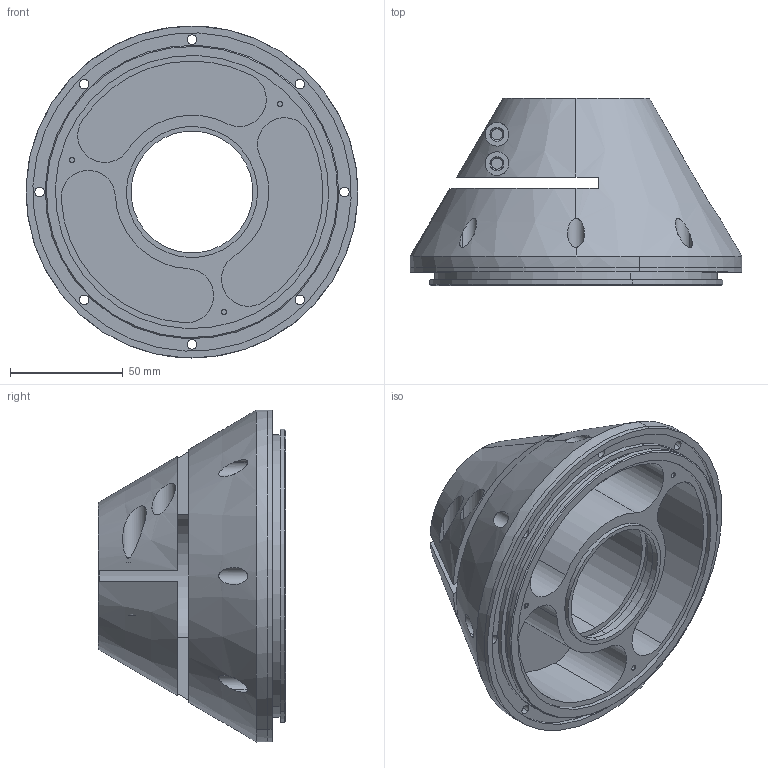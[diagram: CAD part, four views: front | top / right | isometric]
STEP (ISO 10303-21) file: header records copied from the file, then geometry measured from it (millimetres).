
FILE_DESCRIPTION(/* description */ ('VariCAD 2009-1.04 AP-203'),/* implementation_level */ '2;1');
FILE_NAME(/* name */ '0353-10-14',/* time_stamp */ '2009-11-21T16:11:44-07:00',/* author */ (''),/* organization */ (''),/* preprocessor_version */ 'ST-DEVELOPER v12',/* originating_system */ 'VariCAD 2009-1.04; kernel version (20080921)',/* authorisation */ '');
FILE_SCHEMA (('CONFIG_CONTROL_DESIGN'));
Length unit declared in the file: millimetre
Products named in the file (1): Part
Bounding box: 146.96 x 83 x 147 mm (x, y, z)
Volume: 371907.2 mm3; surface area: 100786.6 mm2
Topology: 6 solids, 6 shells, 183 faces, 415 edges, 268 vertices
Faces by surface type: cylinder 118, plane 46, cone 19
Entity records: 6080 total; most frequent: CARTESIAN_POINT 1667, DIRECTION 1000, ORIENTED_EDGE 830, AXIS2_PLACEMENT_3D 425, EDGE_CURVE 415, VERTEX_POINT 268, EDGE_LOOP 239, CIRCLE 235
